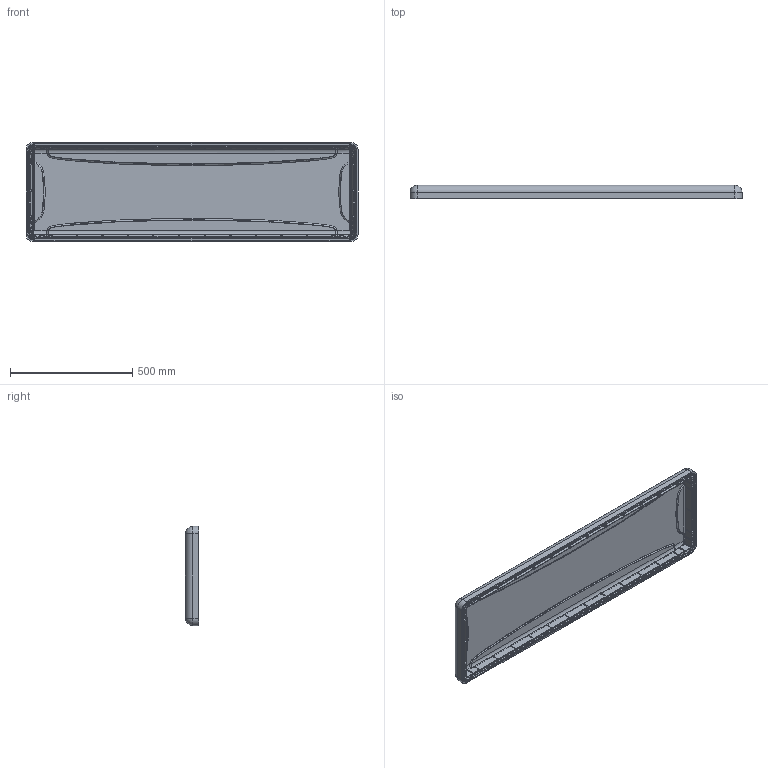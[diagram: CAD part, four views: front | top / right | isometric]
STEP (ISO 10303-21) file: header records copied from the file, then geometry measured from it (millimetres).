
FILE_DESCRIPTION (( 'STEP AP214' ), '1' );
FILE_NAME ('995_Top_INNER_SURFACES.STEP', '2015-02-03T18:29:27', ( '' ), ( '' ), 'SwSTEP 2.0', 'SolidWorks 2014', '' );
FILE_SCHEMA (( 'AUTOMOTIVE_DESIGN' ));
Length unit declared in the file: millimetre
Products named in the file (1): 995_Top_INNER_SURFACES
Bounding box: 1358.2 x 54 x 406.47 mm (x, y, z)
Volume: 10481517.5 mm3; surface area: 1621542.6 mm2
Topology: 1 solids, 1 shells, 2622 faces, 6489 edges, 3814 vertices
Faces by surface type: cylinder 978, bspline 974, plane 396, cone 166, sphere 76, torus 32
Entity records: 137852 total; most frequent: CARTESIAN_POINT 86718, ORIENTED_EDGE 12628, DIRECTION 8452, EDGE_CURVE 6314, VERTEX_POINT 3768, AXIS2_PLACEMENT_3D 3309, EDGE_LOOP 2696, ADVANCED_FACE 2622
